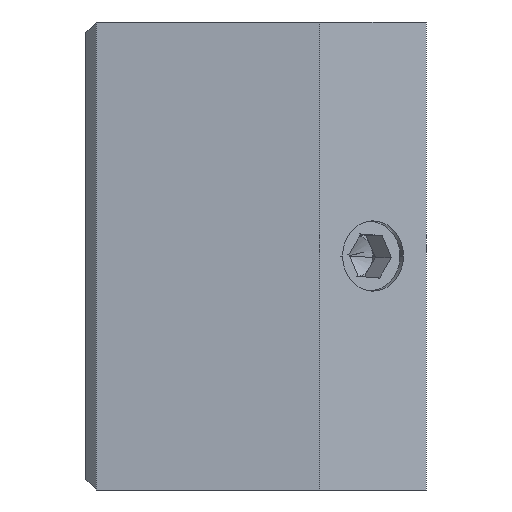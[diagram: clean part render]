
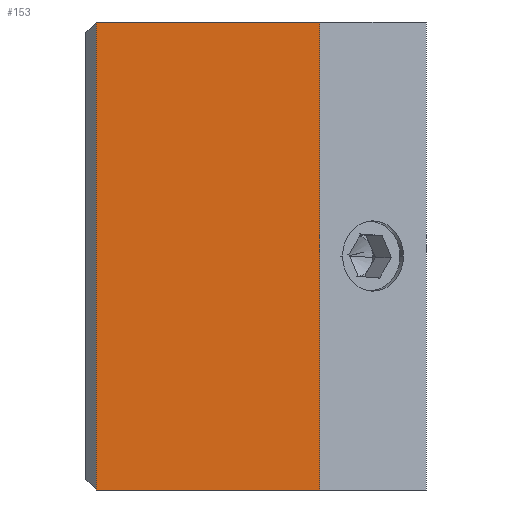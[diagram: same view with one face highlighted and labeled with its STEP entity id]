
A CAD part, left-side view. The second image highlights one B-rep face of the part: STEP entity #153.
In plain terms, the highlighted planar face has unit normal (-1, 0, 0).
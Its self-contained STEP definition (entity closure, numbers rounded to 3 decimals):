
#85 = ORIENTED_EDGE ( 'NONE', *, *, #1133, .T. ) ;
#132 = CARTESIAN_POINT ( 'NONE',  ( -31.736, 4.189, 45. ) ) ;
#139 = CARTESIAN_POINT ( 'NONE',  ( -31.736, -6.311, 45. ) ) ;
#142 = CARTESIAN_POINT ( 'NONE',  ( -31.736, -6.311, 45. ) ) ;
#153 = ADVANCED_FACE ( 'NONE', ( #533 ), #471, .T. ) ;
#301 = VERTEX_POINT ( 'NONE', #1347 ) ;
#326 = CARTESIAN_POINT ( 'NONE',  ( -31.736, -11.311, 45. ) ) ;
#347 = VECTOR ( 'NONE', #1539, 1000. ) ;
#359 = ORIENTED_EDGE ( 'NONE', *, *, #1658, .T. ) ;
#471 = PLANE ( 'NONE',  #1366 ) ;
#504 = LINE ( 'NONE', #142, #1372 ) ;
#533 = FACE_OUTER_BOUND ( 'NONE', #1428, .T. ) ;
#540 = EDGE_CURVE ( 'NONE', #301, #1062, #1526, .T. ) ;
#671 = ORIENTED_EDGE ( 'NONE', *, *, #540, .T. ) ;
#703 = LINE ( 'NONE', #1521, #1682 ) ;
#756 = CARTESIAN_POINT ( 'NONE',  ( -31.736, -11.311, 45. ) ) ;
#770 = DIRECTION ( 'NONE',  ( 0., 0., 1. ) ) ;
#955 = VECTOR ( 'NONE', #1786, 1000. ) ;
#1010 = ORIENTED_EDGE ( 'NONE', *, *, #1139, .F. ) ;
#1062 = VERTEX_POINT ( 'NONE', #132 ) ;
#1133 = EDGE_CURVE ( 'NONE', #1187, #1691, #504, .T. ) ;
#1139 = EDGE_CURVE ( 'NONE', #1187, #1062, #1500, .T. ) ;
#1148 = DIRECTION ( 'NONE',  ( 0., 0., 1. ) ) ;
#1187 = VERTEX_POINT ( 'NONE', #139 ) ;
#1258 = CARTESIAN_POINT ( 'NONE',  ( -31.736, 4.189, 45. ) ) ;
#1337 = DIRECTION ( 'NONE',  ( -1., 0., 0. ) ) ;
#1347 = CARTESIAN_POINT ( 'NONE',  ( -31.736, 4.189, 67. ) ) ;
#1366 = AXIS2_PLACEMENT_3D ( 'NONE', #756, #1337, #770 ) ;
#1372 = VECTOR ( 'NONE', #1148, 1000. ) ;
#1399 = CARTESIAN_POINT ( 'NONE',  ( -31.736, -6.311, 67. ) ) ;
#1428 = EDGE_LOOP ( 'NONE', ( #359, #671, #1010, #85 ) ) ;
#1500 = LINE ( 'NONE', #326, #955 ) ;
#1521 = CARTESIAN_POINT ( 'NONE',  ( -31.736, -11.311, 67. ) ) ;
#1526 = LINE ( 'NONE', #1258, #347 ) ;
#1539 = DIRECTION ( 'NONE',  ( 0., 0., -1. ) ) ;
#1658 = EDGE_CURVE ( 'NONE', #1691, #301, #703, .T. ) ;
#1679 = DIRECTION ( 'NONE',  ( 0., 1., 0. ) ) ;
#1682 = VECTOR ( 'NONE', #1679, 1000. ) ;
#1691 = VERTEX_POINT ( 'NONE', #1399 ) ;
#1786 = DIRECTION ( 'NONE',  ( 0., 1., 0. ) ) ;
